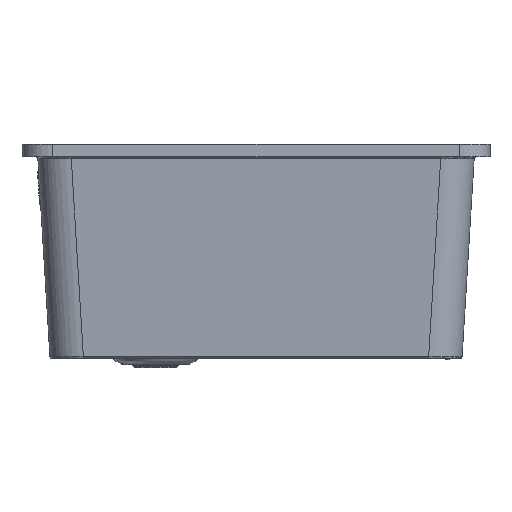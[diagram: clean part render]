
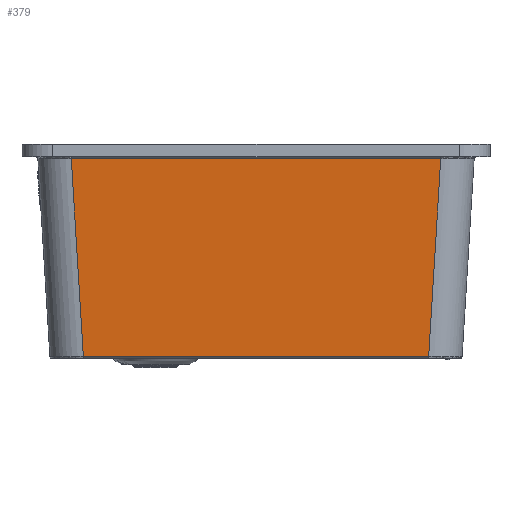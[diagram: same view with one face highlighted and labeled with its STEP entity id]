
A CAD part, left-side view. The second image highlights one B-rep face of the part: STEP entity #379.
In plain terms, the highlighted planar face has unit normal (-0.998, 0, -0.061).
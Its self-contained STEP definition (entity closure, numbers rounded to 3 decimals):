
#379=ADVANCED_FACE('',(#1966),#27243,.T.);
#1966=FACE_OUTER_BOUND('',#3556,.T.);
#3556=EDGE_LOOP('',(#5939,#5940,#5941,#5942));
#5939=ORIENTED_EDGE('',*,*,#13859,.F.);
#5940=ORIENTED_EDGE('',*,*,#13791,.T.);
#5941=ORIENTED_EDGE('',*,*,#13860,.F.);
#5942=ORIENTED_EDGE('',*,*,#13858,.F.);
#13791=EDGE_CURVE('',#23892,#24024,#21849,.T.);
#13858=EDGE_CURVE('',#23893,#23961,#21877,.T.);
#13859=EDGE_CURVE('',#23892,#23893,#21878,.T.);
#13860=EDGE_CURVE('',#23961,#24024,#21879,.T.);
#21849=B_SPLINE_CURVE_WITH_KNOTS('',1,(#46389,#46390),.UNSPECIFIED.,.F.,
 .F.,(2,2),(-358.409,0.),.UNSPECIFIED.);
#21877=B_SPLINE_CURVE_WITH_KNOTS('',1,(#46658,#46659),.UNSPECIFIED.,.F.,
 .F.,(2,2),(-334.954,0.),.UNSPECIFIED.);
#21878=B_SPLINE_CURVE_WITH_KNOTS('',1,(#46660,#46661),.UNSPECIFIED.,.F.,
 .F.,(2,2),(-192.46,0.),.UNSPECIFIED.);
#21879=B_SPLINE_CURVE_WITH_KNOTS('',1,(#46662,#46663),.UNSPECIFIED.,.F.,
 .F.,(2,2),(-192.46,0.),.UNSPECIFIED.);
#23892=VERTEX_POINT('',#44565);
#23893=VERTEX_POINT('',#44566);
#23961=VERTEX_POINT('',#44634);
#24024=VERTEX_POINT('',#44697);
#27243=PLANE('',#28142);
#28142=AXIS2_PLACEMENT_3D('',#38794,#31037,$);
#31037=DIRECTION('',(-0.998,0.,-0.061));
#38794=CARTESIAN_POINT('',(-251.236,-215.166,-225.423));
#44565=CARTESIAN_POINT('',(-264.144,-179.205,-14.378));
#44566=CARTESIAN_POINT('',(-252.416,-167.477,-206.122));
#44634=CARTESIAN_POINT('',(-252.416,167.477,-206.122));
#44697=CARTESIAN_POINT('',(-264.144,179.205,-14.378));
#46389=CARTESIAN_POINT('',(-264.144,-179.205,-14.378));
#46390=CARTESIAN_POINT('',(-264.144,179.205,-14.378));
#46658=CARTESIAN_POINT('',(-252.416,-167.477,-206.122));
#46659=CARTESIAN_POINT('',(-252.416,167.477,-206.122));
#46660=CARTESIAN_POINT('',(-264.144,-179.205,-14.378));
#46661=CARTESIAN_POINT('',(-252.416,-167.477,-206.122));
#46662=CARTESIAN_POINT('',(-252.416,167.477,-206.122));
#46663=CARTESIAN_POINT('',(-264.144,179.205,-14.378));
